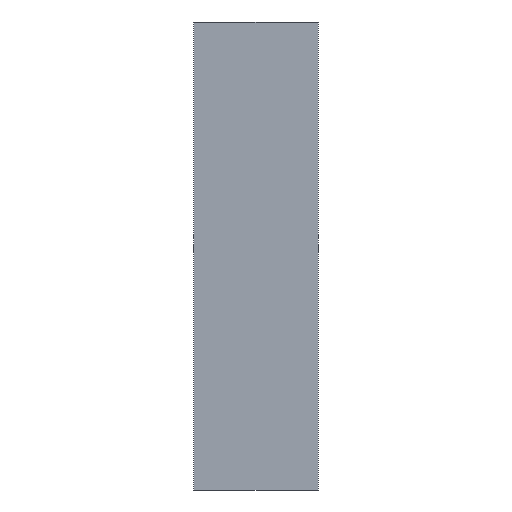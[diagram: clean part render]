
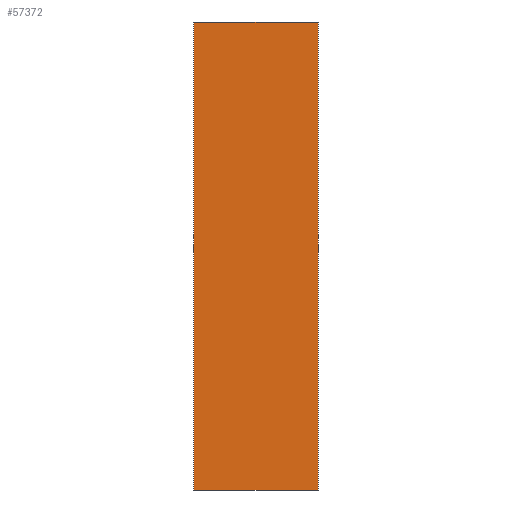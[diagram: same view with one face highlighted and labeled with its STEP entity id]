
A CAD part, front view. The second image highlights one B-rep face of the part: STEP entity #57372.
In plain terms, the highlighted planar face has unit normal (0, -1, 0).
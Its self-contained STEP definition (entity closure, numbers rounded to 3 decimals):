
#1=DIRECTION('',(1.,0.,0.));
#2=VECTOR('',#1,80.);
#3=CARTESIAN_POINT('',(-40.,94.9,69.93));
#4=LINE('',#3,#2);
#5=DIRECTION('',(0.,0.,-1.));
#6=VECTOR('',#5,300.);
#7=CARTESIAN_POINT('',(40.,94.9,69.93));
#8=LINE('',#7,#6);
#9=DIRECTION('',(-1.,0.,0.));
#10=VECTOR('',#9,80.);
#11=CARTESIAN_POINT('',(40.,94.9,-230.07));
#12=LINE('',#11,#10);
#13=DIRECTION('',(0.,0.,1.));
#14=VECTOR('',#13,300.);
#15=CARTESIAN_POINT('',(-40.,94.9,-230.07));
#16=LINE('',#15,#14);
#57247=CARTESIAN_POINT('',(-40.,94.9,69.93));
#57248=CARTESIAN_POINT('',(40.,94.9,69.93));
#57249=VERTEX_POINT('',#57247);
#57250=VERTEX_POINT('',#57248);
#57251=CARTESIAN_POINT('',(40.,94.9,-230.07));
#57252=VERTEX_POINT('',#57251);
#57253=CARTESIAN_POINT('',(-40.,94.9,-230.07));
#57254=VERTEX_POINT('',#57253);
#57357=CARTESIAN_POINT('',(0.,94.9,-0.07));
#57358=DIRECTION('',(0.,-1.,0.));
#57359=DIRECTION('',(0.,0.,-1.));
#57360=AXIS2_PLACEMENT_3D('',#57357,#57358,#57359);
#57361=PLANE('',#57360);
#57363=ORIENTED_EDGE('',*,*,#57362,.T.);
#57365=ORIENTED_EDGE('',*,*,#57364,.T.);
#57367=ORIENTED_EDGE('',*,*,#57366,.T.);
#57369=ORIENTED_EDGE('',*,*,#57368,.T.);
#57370=EDGE_LOOP('',(#57363,#57365,#57367,#57369));
#57371=FACE_OUTER_BOUND('',#57370,.F.);
#57372=ADVANCED_FACE('',(#57371),#57361,.T.);
#57362=EDGE_CURVE('',#57249,#57250,#4,.T.);
#57364=EDGE_CURVE('',#57250,#57252,#8,.T.);
#57366=EDGE_CURVE('',#57252,#57254,#12,.T.);
#57368=EDGE_CURVE('',#57254,#57249,#16,.T.);
